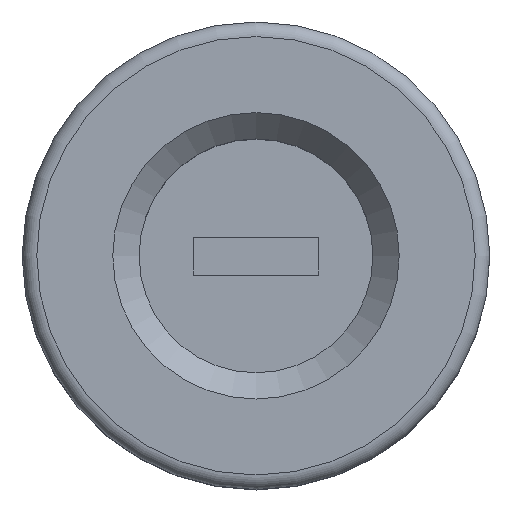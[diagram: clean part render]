
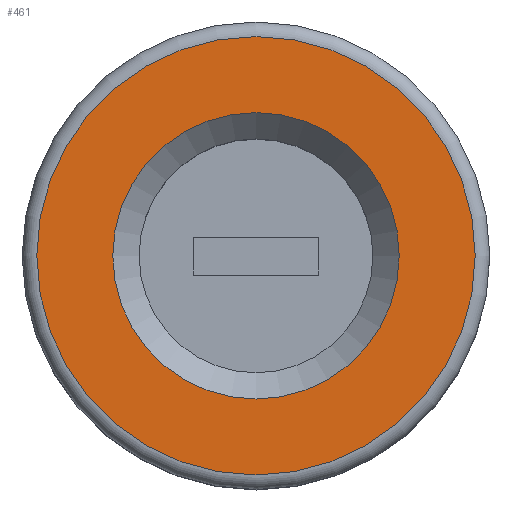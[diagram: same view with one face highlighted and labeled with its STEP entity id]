
A CAD part, top view. The second image highlights one B-rep face of the part: STEP entity #461.
In plain terms, the highlighted planar face has unit normal (0, 0, 1).
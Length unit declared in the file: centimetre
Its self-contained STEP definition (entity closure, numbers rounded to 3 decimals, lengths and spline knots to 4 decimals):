
#25=FACE_BOUND($,#107,.T.);
#32=CIRCLE($,#500,0.9801);
#34=CIRCLE($,#503,1.5);
#69=FACE_OUTER_BOUND($,#106,.T.);
#106=EDGE_LOOP($,(#391));
#107=EDGE_LOOP($,(#392));
#240=VERTEX_POINT($,#756);
#242=VERTEX_POINT($,#761);
#293=EDGE_CURVE($,#240,#240,#32,.T.);
#295=EDGE_CURVE($,#242,#242,#34,.T.);
#391=ORIENTED_EDGE($,*,*,#295,.F.);
#392=ORIENTED_EDGE($,*,*,#293,.T.);
#434=PLANE($,#506);
#461=ADVANCED_FACE($,(#69,#25),#434,.T.);
#500=AXIS2_PLACEMENT_3D($,#757,#614,#615);
#503=AXIS2_PLACEMENT_3D($,#762,#620,#621);
#506=AXIS2_PLACEMENT_3D($,#766,#626,#627);
#614=DIRECTION('center_axis',(0.,0.,-1.));
#615=DIRECTION('ref_axis',(-1.,0.,0.));
#620=DIRECTION('center_axis',(0.,0.,-1.));
#621=DIRECTION('ref_axis',(1.,0.,0.));
#626=DIRECTION('center_axis',(0.,0.,1.));
#627=DIRECTION('ref_axis',(-1.,0.,0.));
#756=CARTESIAN_POINT('',(-19.1528,28.,18.04));
#757=CARTESIAN_POINT('Origin',(-20.133,28.,18.04));
#761=CARTESIAN_POINT('',(-21.633,28.,18.04));
#762=CARTESIAN_POINT('Origin',(-20.133,28.,18.04));
#766=CARTESIAN_POINT('Origin',(-20.133,28.,18.04));
